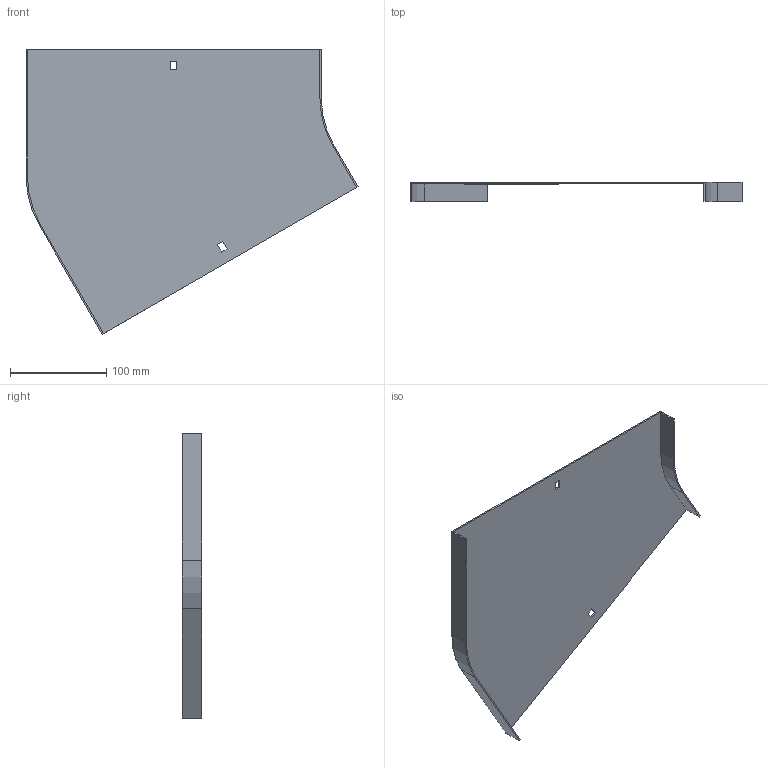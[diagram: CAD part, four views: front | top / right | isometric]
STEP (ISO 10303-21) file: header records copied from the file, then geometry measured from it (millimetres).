
FILE_DESCRIPTION (( 'STEP AP214' ), '1' );
FILE_NAME ('12N1R300.step', '2025-02-21T09:20:22', ( '' ), ( '' ), 'SwSTEP 2.0', 'SolidWorks 2023', '' );
FILE_SCHEMA (( 'AUTOMOTIVE_DESIGN' ));
Length unit declared in the file: millimetre
Products named in the file (1): 12N1R300
Bounding box: 345.2 x 20 x 296.05 mm (x, y, z)
Volume: 121034.6 mm3; surface area: 163206 mm2
Topology: 1 solids, 1 shells, 26 faces, 72 edges, 48 vertices
Faces by surface type: plane 22, cylinder 4
Entity records: 855 total; most frequent: CARTESIAN_POINT 147, ORIENTED_EDGE 144, DIRECTION 134, EDGE_CURVE 72, VECTOR 64, LINE 64, VERTEX_POINT 48, AXIS2_PLACEMENT_3D 35
